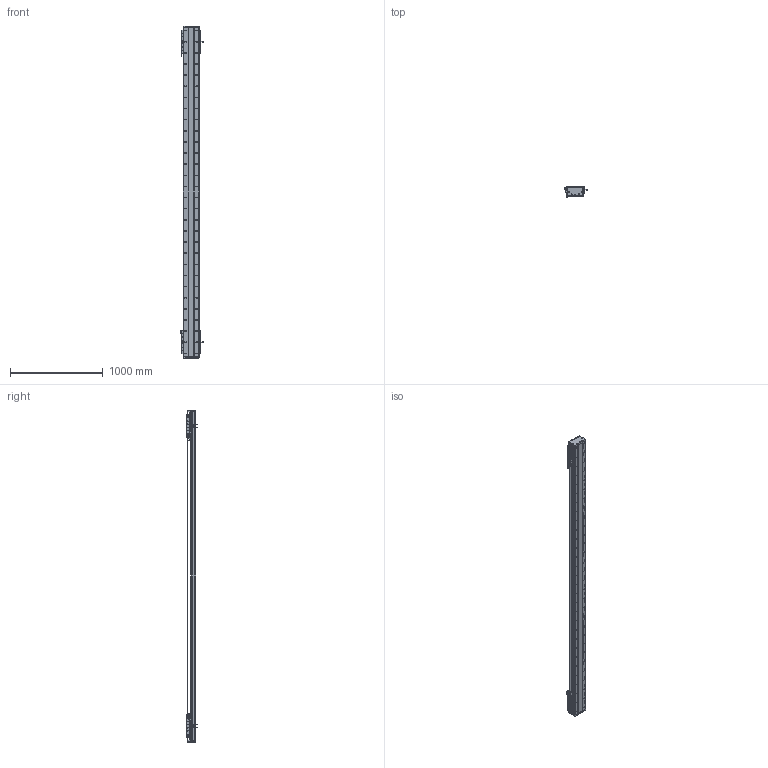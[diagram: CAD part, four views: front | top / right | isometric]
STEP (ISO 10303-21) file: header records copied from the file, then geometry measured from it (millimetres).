
FILE_DESCRIPTION (( 'STEP AP203' ), '1' );
FILE_NAME ('DA-C165-2-C3-T2960-C010-0.2 直线电机.STEP', '2023-06-13T09:12:35', ( '微软用户' ), ( '微软中国' ), 'SwSTEP 2.0', 'SolidWorks 2019', '' );
FILE_SCHEMA (( 'CONFIG_CONTROL_DESIGN' ));
Length unit declared in the file: millimetre
Products named in the file (22): 复件 DA165-GYP-00 光电感应片^DA-C165-C3-T-C010-0.2-N 直线电机; 复件 DKW-HXJ-JY-00 缓冲橡胶^DA-C165-C3-T-C010-0.2-N 直线电机; 复件 CU165 底座^IU-CU165-L 底座导轨_L3540; 复件 六角薄螺母 M3^DA-C165-C3-T-C010-0.2-N 直线电机_GB_FASTENER_NUT_STNAB M3-C; 复件 DA165-GD-1860-002-00 钢带盖板^复件 CU165钢带组件_DA-C165-C3-T-C010-0.2-N 直线电机; 葩璃 CKM01-W075-TRL^DA-C165-C3-T-C010-0.2-N 眻盄萇儂; 复件 CU165钢带组件^DA-C165-C3-T-C010-0.2-N 直线电机; 复件 66338-1000-006-00 光电感应块^DA-C165-C3-T-C010-0.2-N 直线电机; 复件 DA126-GYP-ZJ-00 中间光电感应片^DA-C165-C3-T-C010-0.2-N 直线电机; 复件 DMA-010-0.2 读数头^DA-C165-C3-T-C010-0.2-N 直线电机; IU-CU165-L 菁釱絳寢; 葩璃 PM-Y45^DA-C165-C3-T-C010-0.2-N 眻盄萇儂; 葩璃 DA95-GT-T-00^IU-CU165-L 菁釱絳寢_T; 复件 DA165-GD-DG-H-00 端盖^复件 CU165钢带组件_DA-C165-C3-T-C010-0.2-N 直线电机; 复件 DA95-HXJ-00 缓冲橡胶^DA-C165-C3-T-C010-0.2-N 直线电机; 复件 DA165-GDYK-00 钢带压块^复件 CU165钢带组件_DA-C165-C3-T-C010-0.2-N 直线电机; 复件 DA165-GDLK-00 钢带拉块^复件 CU165钢带组件_DA-C165-C3-T-C010-0.2-N 直线电机; 复件 XD-U-02L 磁栅尺^DA-C165-C3-T-C010-0.2-N 直线电机_T; 葩璃 CKM03-W075-C1C2-TP-3.0^DA-C165-C3-T-C010-0.2-N 眻盄萇儂; 珨极趙賑雄怢啣C3-wf; 葩璃 PM-T45^DA-C165-C3-T-C010-0.2-N 眻盄萇儂; DA-C165-2-C3-T2960-C010-0.2 眻盄萇儂
Assembly tree (45 placements, depth 3):
  DA-C165-2-C3-T2960-C010-0.2 眻盄萇儂
    IU-CU165-L 菁釱絳寢
      复件 CU165 底座^IU-CU165-L 底座导轨_L3540
      葩璃 DA95-GT-T-00^IU-CU165-L 菁釱絳寢_T  x4
    复件 XD-U-02L 磁栅尺^DA-C165-C3-T-C010-0.2-N 直线电机_T
    葩璃 PM-T45^DA-C165-C3-T-C010-0.2-N 眻盄萇儂  x4
    葩璃 CKM01-W075-TRL^DA-C165-C3-T-C010-0.2-N 眻盄萇儂
    复件 CU165钢带组件^DA-C165-C3-T-C010-0.2-N 直线电机
      复件 DA165-GD-DG-H-00 端盖^复件 CU165钢带组件_DA-C165-C3-T-C010-0.2-N 直线电机  x2
      复件 DA165-GDYK-00 钢带压块^复件 CU165钢带组件_DA-C165-C3-T-C010-0.2-N 直线电机  x2
      复件 DA165-GD-1860-002-00 钢带盖板^复件 CU165钢带组件_DA-C165-C3-T-C010-0.2-N 直线电机
      复件 DA165-GDLK-00 钢带拉块^复件 CU165钢带组件_DA-C165-C3-T-C010-0.2-N 直线电机  x2
    复件 DA95-HXJ-00 缓冲橡胶^DA-C165-C3-T-C010-0.2-N 直线电机  x4
    复件 DMA-010-0.2 读数头^DA-C165-C3-T-C010-0.2-N 直线电机  x2
    复件 DA165-GYP-00 光电感应片^DA-C165-C3-T-C010-0.2-N 直线电机  x2
    复件 66338-1000-006-00 光电感应块^DA-C165-C3-T-C010-0.2-N 直线电机
    葩璃 PM-Y45^DA-C165-C3-T-C010-0.2-N 眻盄萇儂
    复件 DA126-GYP-ZJ-00 中间光电感应片^DA-C165-C3-T-C010-0.2-N 直线电机
    葩璃 CKM03-W075-C1C2-TP-3.0^DA-C165-C3-T-C010-0.2-N 眻盄萇儂  x2
    复件 DKW-HXJ-JY-00 缓冲橡胶^DA-C165-C3-T-C010-0.2-N 直线电机  x2
    复件 六角薄螺母 M3^DA-C165-C3-T-C010-0.2-N 直线电机_GB_FASTENER_NUT_STNAB M3-C  x8
    珨极趙賑雄怢啣C3-wf  x2
Bounding box: 247.2 x 111.45 x 3580 mm (x, y, z)
Volume: 21810831.7 mm3; surface area: 6332737.8 mm2
Topology: 121 solids, 221 shells, 7045 faces, 19738 edges, 12376 vertices
Faces by surface type: cylinder 3926, plane 2051, cone 980, torus 80, sphere 8
Entity records: 172938 total; most frequent: CARTESIAN_POINT 48429, ORIENTED_EDGE 26060, DIRECTION 24918, EDGE_CURVE 13030, AXIS2_PLACEMENT_3D 9563, VERTEX_POINT 8530, EDGE_LOOP 5970, LINE 5792
